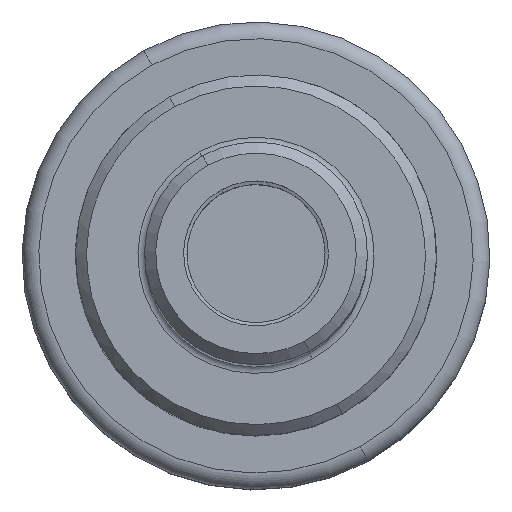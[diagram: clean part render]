
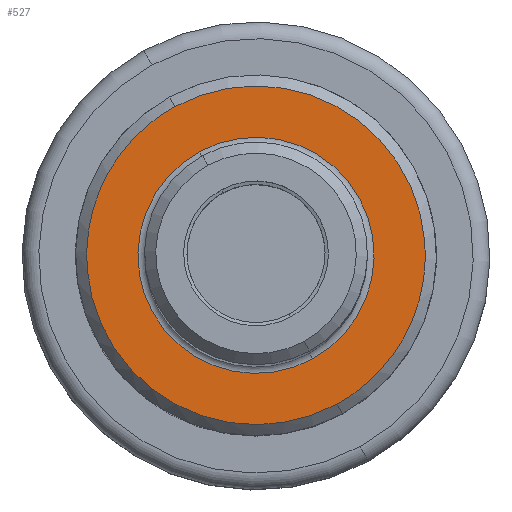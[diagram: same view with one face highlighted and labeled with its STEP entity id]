
A CAD part, top view. The second image highlights one B-rep face of the part: STEP entity #527.
In plain terms, the highlighted planar face has unit normal (0, 0, 1).
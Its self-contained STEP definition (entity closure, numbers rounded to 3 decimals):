
#424=AXIS2_PLACEMENT_3D('Circle Axis2P3D',#422,#423,$) ;
#436=AXIS2_PLACEMENT_3D('Circle Axis2P3D',#434,#435,$) ;
#449=AXIS2_PLACEMENT_3D('Plane Axis2P3D',#446,#447,#448) ;
#412=CARTESIAN_POINT('Vertex',(-5.082,9.302,-100.)) ;
#419=CARTESIAN_POINT('Vertex',(5.082,-9.302,-100.)) ;
#422=CARTESIAN_POINT('Axis2P3D Location',(0.,0.,-100.)) ;
#434=CARTESIAN_POINT('Axis2P3D Location',(0.,0.,-100.)) ;
#446=CARTESIAN_POINT('Axis2P3D Location',(0.,10.6,-100.)) ;
#452=CARTESIAN_POINT('Control Point',(-7.287,13.339,-100.)) ;
#453=CARTESIAN_POINT('Control Point',(-5.964,14.062,-100.)) ;
#454=CARTESIAN_POINT('Control Point',(-4.551,14.621,-100.)) ;
#455=CARTESIAN_POINT('Control Point',(-3.075,15.001,-100.)) ;
#456=CARTESIAN_POINT('Control Point',(-0.038,15.39,-100.)) ;
#457=CARTESIAN_POINT('Control Point',(3.002,15.019,-100.)) ;
#458=CARTESIAN_POINT('Control Point',(4.502,14.64,-100.)) ;
#459=CARTESIAN_POINT('Control Point',(7.373,13.512,-100.)) ;
#460=CARTESIAN_POINT('Control Point',(9.876,11.707,-100.)) ;
#461=CARTESIAN_POINT('Control Point',(11.006,10.651,-100.)) ;
#462=CARTESIAN_POINT('Control Point',(12.32,9.069,-100.)) ;
#463=CARTESIAN_POINT('Control Point',(13.345,7.303,-100.)) ;
#464=CARTESIAN_POINT('Control Point',(13.583,6.851,-100.)) ;
#465=CARTESIAN_POINT('Control Point',(14.213,5.519,-100.)) ;
#466=CARTESIAN_POINT('Control Point',(14.679,4.119,-100.)) ;
#467=CARTESIAN_POINT('Control Point',(14.91,3.181,-100.)) ;
#468=CARTESIAN_POINT('Control Point',(15.149,1.725,-100.)) ;
#469=CARTESIAN_POINT('Control Point',(15.211,0.255,-100.)) ;
#470=CARTESIAN_POINT('Control Point',(15.211,-0.255,-100.)) ;
#471=CARTESIAN_POINT('Control Point',(15.149,-1.725,-100.)) ;
#472=CARTESIAN_POINT('Control Point',(14.91,-3.181,-100.)) ;
#473=CARTESIAN_POINT('Control Point',(14.679,-4.119,-100.)) ;
#474=CARTESIAN_POINT('Control Point',(13.89,-6.491,-100.)) ;
#475=CARTESIAN_POINT('Control Point',(12.631,-8.664,-100.)) ;
#476=CARTESIAN_POINT('Control Point',(11.692,-9.893,-100.)) ;
#477=CARTESIAN_POINT('Control Point',(10.25,-11.357,-100.)) ;
#478=CARTESIAN_POINT('Control Point',(8.595,-12.552,-100.)) ;
#479=CARTESIAN_POINT('Control Point',(8.17,-12.833,-100.)) ;
#480=CARTESIAN_POINT('Control Point',(7.734,-13.095,-100.)) ;
#481=CARTESIAN_POINT('Control Point',(7.287,-13.339,-100.)) ;
#482=CARTESIAN_POINT('Vertex',(-7.287,13.339,-100.)) ;
#484=CARTESIAN_POINT('Vertex',(7.287,-13.339,-100.)) ;
#488=CARTESIAN_POINT('Control Point',(7.287,-13.339,-100.)) ;
#489=CARTESIAN_POINT('Control Point',(5.944,-14.073,-100.)) ;
#490=CARTESIAN_POINT('Control Point',(4.509,-14.638,-100.)) ;
#491=CARTESIAN_POINT('Control Point',(3.009,-15.018,-100.)) ;
#492=CARTESIAN_POINT('Control Point',(-0.053,-15.393,-100.)) ;
#493=CARTESIAN_POINT('Control Point',(-3.112,-14.997,-100.)) ;
#494=CARTESIAN_POINT('Control Point',(-4.609,-14.606,-100.)) ;
#495=CARTESIAN_POINT('Control Point',(-7.473,-13.457,-100.)) ;
#496=CARTESIAN_POINT('Control Point',(-9.962,-11.634,-100.)) ;
#497=CARTESIAN_POINT('Control Point',(-11.085,-10.57,-100.)) ;
#498=CARTESIAN_POINT('Control Point',(-12.372,-8.996,-100.)) ;
#499=CARTESIAN_POINT('Control Point',(-13.377,-7.243,-100.)) ;
#500=CARTESIAN_POINT('Control Point',(-13.602,-6.81,-100.)) ;
#501=CARTESIAN_POINT('Control Point',(-14.22,-5.498,-100.)) ;
#502=CARTESIAN_POINT('Control Point',(-14.679,-4.119,-100.)) ;
#503=CARTESIAN_POINT('Control Point',(-14.91,-3.181,-100.)) ;
#504=CARTESIAN_POINT('Control Point',(-15.149,-1.725,-100.)) ;
#505=CARTESIAN_POINT('Control Point',(-15.211,-0.255,-100.)) ;
#506=CARTESIAN_POINT('Control Point',(-15.211,0.255,-100.)) ;
#507=CARTESIAN_POINT('Control Point',(-15.149,1.725,-100.)) ;
#508=CARTESIAN_POINT('Control Point',(-14.91,3.181,-100.)) ;
#509=CARTESIAN_POINT('Control Point',(-14.679,4.119,-100.)) ;
#510=CARTESIAN_POINT('Control Point',(-13.89,6.491,-100.)) ;
#511=CARTESIAN_POINT('Control Point',(-12.631,8.664,-100.)) ;
#512=CARTESIAN_POINT('Control Point',(-11.692,9.893,-100.)) ;
#513=CARTESIAN_POINT('Control Point',(-10.25,11.357,-100.)) ;
#514=CARTESIAN_POINT('Control Point',(-8.595,12.552,-100.)) ;
#515=CARTESIAN_POINT('Control Point',(-8.17,12.833,-100.)) ;
#516=CARTESIAN_POINT('Control Point',(-7.734,13.095,-100.)) ;
#517=CARTESIAN_POINT('Control Point',(-7.287,13.339,-100.)) ;
#423=DIRECTION('Axis2P3D Direction',(0.,0.,1.)) ;
#435=DIRECTION('Axis2P3D Direction',(0.,0.,1.)) ;
#447=DIRECTION('Axis2P3D Direction',(0.,0.,1.)) ;
#448=DIRECTION('Axis2P3D XDirection',(1.,0.,0.)) ;
#520=ORIENTED_EDGE('',*,*,#486,.F.) ;
#521=ORIENTED_EDGE('',*,*,#518,.F.) ;
#524=ORIENTED_EDGE('',*,*,#438,.F.) ;
#525=ORIENTED_EDGE('',*,*,#426,.F.) ;
#526=FACE_BOUND('',#523,.T.) ;
#527=ADVANCED_FACE('NOCUT',(#522,#526),#450,.T.) ;
#451=B_SPLINE_CURVE_WITH_KNOTS('',5,(#452,#453,#454,#455,#456,#457,#458,#459,#460,#461,#462,#463,#464,#465,#466,#467,#468,#469,#470,#471,#472,#473,#474,#475,#476,#477,#478,#479,#480,#481),.UNSPECIFIED.,.F.,.U.,(6,3,3,3,3,3,3,3,3,6),(0.,10.84,21.842,32.844,36.51,43.422,47.081,53.993,64.994,68.651),.UNSPECIFIED.) ;
#487=B_SPLINE_CURVE_WITH_KNOTS('',5,(#488,#489,#490,#491,#492,#493,#494,#495,#496,#497,#498,#499,#500,#501,#502,#503,#504,#505,#506,#507,#508,#509,#510,#511,#512,#513,#514,#515,#516,#517),.UNSPECIFIED.,.F.,.U.,(6,3,3,3,3,3,3,3,3,6),(68.651,79.652,90.654,101.656,105.161,112.073,115.732,122.644,133.645,137.302),.UNSPECIFIED.) ;
#425=CIRCLE('generated circle',#424,10.6) ;
#437=CIRCLE('generated circle',#436,10.6) ;
#426=EDGE_CURVE('',#420,#413,#425,.T.) ;
#438=EDGE_CURVE('',#413,#420,#437,.T.) ;
#486=EDGE_CURVE('',#483,#485,#451,.T.) ;
#518=EDGE_CURVE('',#485,#483,#487,.T.) ;
#519=EDGE_LOOP('',(#520,#521)) ;
#523=EDGE_LOOP('',(#524,#525)) ;
#522=FACE_OUTER_BOUND('',#519,.T.) ;
#450=PLANE('',#449) ;
#413=VERTEX_POINT('',#412) ;
#420=VERTEX_POINT('',#419) ;
#483=VERTEX_POINT('',#482) ;
#485=VERTEX_POINT('',#484) ;
